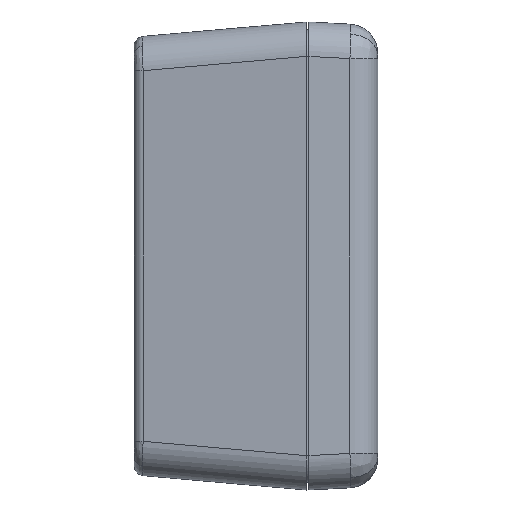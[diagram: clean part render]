
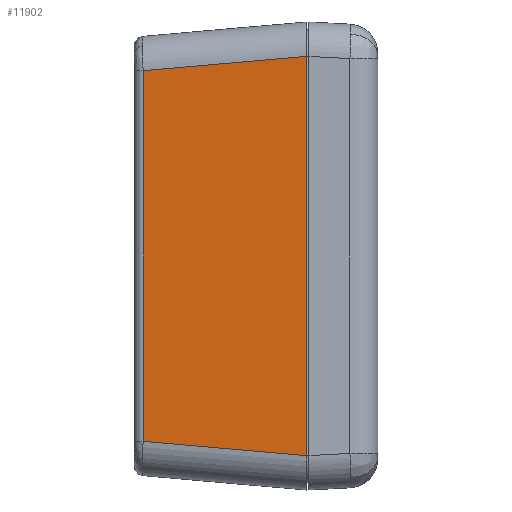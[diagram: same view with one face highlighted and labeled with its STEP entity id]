
A CAD part, left-side view. The second image highlights one B-rep face of the part: STEP entity #11902.
In plain terms, the highlighted planar face has unit normal (-0.996, 0.087, 0).
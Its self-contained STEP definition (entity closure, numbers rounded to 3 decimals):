
#4 = LINE ( 'NONE', #8041, #9266 ) ;
#1147 = DIRECTION ( 'NONE',  ( 0.087, 0.992, -0.087 ) ) ;
#1394 = VERTEX_POINT ( 'NONE', #7220 ) ;
#3071 = ORIENTED_EDGE ( 'NONE', *, *, #10330, .T. ) ;
#3153 = ORIENTED_EDGE ( 'NONE', *, *, #6078, .T. ) ;
#3235 = DIRECTION ( 'NONE',  ( 0., 0., -1. ) ) ;
#3526 = CARTESIAN_POINT ( 'NONE',  ( -75., 0., 40.527 ) ) ;
#4385 = EDGE_CURVE ( 'NONE', #13169, #12668, #12676, .T. ) ;
#4648 = CARTESIAN_POINT ( 'NONE',  ( -72.098, 33.174, -37.624 ) ) ;
#4876 = DIRECTION ( 'NONE',  ( -0.087, -0.996, 0. ) ) ;
#5051 = AXIS2_PLACEMENT_3D ( 'NONE', #10291, #13660, #4876 ) ;
#5257 = EDGE_CURVE ( 'NONE', #1394, #7840, #11743, .T. ) ;
#5318 = DIRECTION ( 'NONE',  ( 0., 0., 1. ) ) ;
#5624 = CARTESIAN_POINT ( 'NONE',  ( -74.336, 7.585, 39.863 ) ) ;
#5762 = LINE ( 'NONE', #5624, #7409 ) ;
#6078 = EDGE_CURVE ( 'NONE', #7840, #13169, #4, .T. ) ;
#6258 = CARTESIAN_POINT ( 'NONE',  ( -72.098, 33.174, -37.465 ) ) ;
#6520 = CARTESIAN_POINT ( 'NONE',  ( -75., 0., -40.527 ) ) ;
#7220 = CARTESIAN_POINT ( 'NONE',  ( -72.098, 33.174, 37.624 ) ) ;
#7409 = VECTOR ( 'NONE', #1147, 1000. ) ;
#7623 = ORIENTED_EDGE ( 'NONE', *, *, #5257, .T. ) ;
#7840 = VERTEX_POINT ( 'NONE', #4648 ) ;
#8041 = CARTESIAN_POINT ( 'NONE',  ( -75.053, -0.601, -40.579 ) ) ;
#9266 = VECTOR ( 'NONE', #12317, 1000. ) ;
#9299 = PLANE ( 'NONE',  #5051 ) ;
#9371 = FACE_OUTER_BOUND ( 'NONE', #10222, .T. ) ;
#10222 = EDGE_LOOP ( 'NONE', ( #3071, #7623, #3153, #12168 ) ) ;
#10291 = CARTESIAN_POINT ( 'NONE',  ( -75., 0., -47.5 ) ) ;
#10330 = EDGE_CURVE ( 'NONE', #12668, #1394, #5762, .T. ) ;
#10539 = VECTOR ( 'NONE', #5318, 1000. ) ;
#11743 = LINE ( 'NONE', #6258, #12842 ) ;
#11902 = ADVANCED_FACE ( 'NONE', ( #9371 ), #9299, .T. ) ;
#12168 = ORIENTED_EDGE ( 'NONE', *, *, #4385, .T. ) ;
#12317 = DIRECTION ( 'NONE',  ( -0.087, -0.992, -0.087 ) ) ;
#12668 = VERTEX_POINT ( 'NONE', #3526 ) ;
#12676 = LINE ( 'NONE', #13748, #10539 ) ;
#12842 = VECTOR ( 'NONE', #3235, 1000. ) ;
#13169 = VERTEX_POINT ( 'NONE', #6520 ) ;
#13660 = DIRECTION ( 'NONE',  ( -0.996, 0.087, 0. ) ) ;
#13748 = CARTESIAN_POINT ( 'NONE',  ( -75., 0., -47.5 ) ) ;
